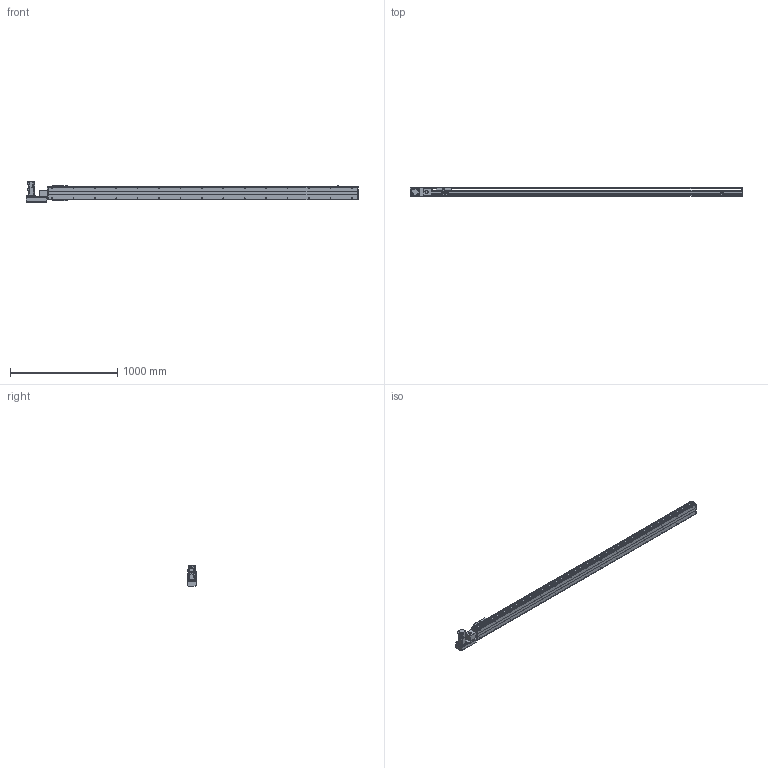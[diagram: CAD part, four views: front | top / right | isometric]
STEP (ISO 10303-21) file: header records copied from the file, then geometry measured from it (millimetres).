
FILE_DESCRIPTION( ( 'STEP AP214' ), '1' );
FILE_NAME( 'x:/temp/worker_26/temp/exporttempdir_3776_77_Q8mGh/format_0/PBS120-P40-S2600-L-T40-C1-N(0).stp', '2022-06-05T00:29:36', ( 'License CC BY-ND 4.0' ), ( 'CADENAS' ), ' ', 'PARTsolutions', ' ' );
FILE_SCHEMA( ( 'AUTOMOTIVE_DESIGN { 1 0 10303 214 1 1 1 1 }' ) );
Length unit declared in the file: millimetre
Products named in the file (7): PBS120-P40-S2600-L-T40-C1-N(0); _PBS120-S2600()_body; _PBS120T-L_motors; _T40-p1; _PBS120_sliser; _PBS120_plant; _PBS120_sensor
Assembly tree (8 placements, depth 2):
  PBS120-P40-S2600-L-T40-C1-N(0)
    _PBS120-S2600()_body
    _PBS120T-L_motors
    _T40-p1
    _PBS120_sliser
    _PBS120_plant
    _PBS120_sensor  x3
Bounding box: 3101 x 83 x 189.7 mm (x, y, z)
Volume: 11169324.3 mm3; surface area: 2312716.6 mm2
Topology: 8 solids, 8 shells, 870 faces, 2226 edges, 1429 vertices
Faces by surface type: plane 563, cylinder 243, cone 62, torus 2
Full cylindrical faces by diameter (mm): 2.459 x6, 3.242 x4, 4 x2, 4.134 x4, 4.5 x10, 4.917 x34, 5.5 x11, 6 x2, 6.6 x1, 7 x2, 8.5 x4, 9 x4, 12 x1, 14 x1, 30 x2, 40 x1, 50 x2
Entity records: 28500 total; most frequent: DIRECTION 3908, CARTESIAN_POINT 3803, ORIENTED_EDGE 3586, EDGE_CURVE 1793, AXIS2_PLACEMENT_3D 1340, VERTEX_POINT 1235, LINE 1228, VECTOR 1228
